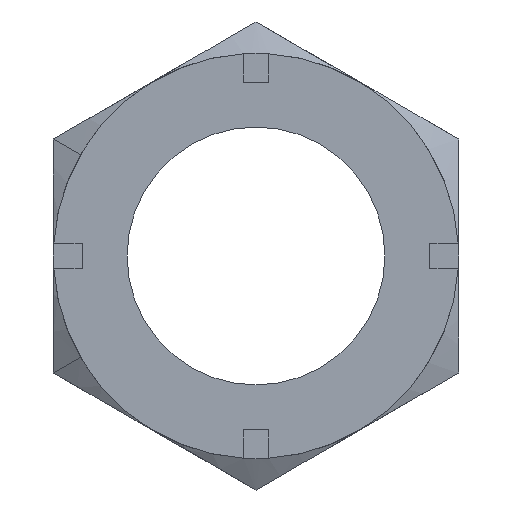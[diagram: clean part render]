
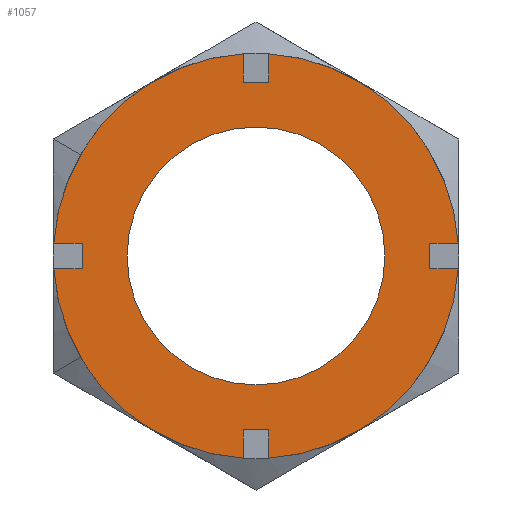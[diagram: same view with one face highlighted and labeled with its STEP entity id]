
A CAD part, left-side view. The second image highlights one B-rep face of the part: STEP entity #1057.
In plain terms, the highlighted planar face has unit normal (-1, 0, 0).
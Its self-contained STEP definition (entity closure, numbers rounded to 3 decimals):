
#130=CARTESIAN_POINT('',(-38.0,0.,17.5));
#131=VERTEX_POINT('',#130);
#140=CARTESIAN_POINT('',(-38.0,17.5,0.0));
#141=VERTEX_POINT('',#140);
#142=CARTESIAN_POINT('',(-38.0,0.0,0.0));
#143=DIRECTION('',(1.0,0.0,0.0));
#144=DIRECTION('',(0.0,1.0,0.0));
#145=AXIS2_PLACEMENT_3D('',#142,#143,#144);
#146=CIRCLE('',#145,17.5);
#147=EDGE_CURVE('',#141,#131,#146,.T.);
#341=CARTESIAN_POINT('',(-38.0,0.,-17.5));
#342=VERTEX_POINT('',#341);
#351=CARTESIAN_POINT('',(-38.0,-17.5,0.));
#352=VERTEX_POINT('',#351);
#353=CARTESIAN_POINT('',(-38.0,0.0,0.0));
#354=DIRECTION('',(1.0,0.0,0.0));
#355=DIRECTION('',(0.0,1.0,0.0));
#356=AXIS2_PLACEMENT_3D('',#353,#354,#355);
#357=CIRCLE('',#356,17.5);
#358=EDGE_CURVE('',#352,#342,#357,.T.);
#392=CARTESIAN_POINT('',(-38.0,0.0,0.0));
#393=DIRECTION('',(1.0,0.0,0.0));
#394=DIRECTION('',(0.0,1.0,0.0));
#395=AXIS2_PLACEMENT_3D('',#392,#393,#394);
#396=CIRCLE('',#395,17.5);
#397=EDGE_CURVE('',#342,#141,#396,.T.);
#407=CARTESIAN_POINT('',(-38.0,27.447,1.7));
#408=VERTEX_POINT('',#407);
#423=CARTESIAN_POINT('',(-38.0,23.6,1.7));
#424=VERTEX_POINT('',#423);
#431=CARTESIAN_POINT('',(-38.0,27.447,1.7));
#432=DIRECTION('',(0.0,-1.0,0.0));
#433=VECTOR('',#432,3.847);
#434=LINE('',#431,#433);
#435=EDGE_CURVE('',#408,#424,#434,.T.);
#445=CARTESIAN_POINT('',(-38.0,27.447,-1.7));
#446=VERTEX_POINT('',#445);
#455=CARTESIAN_POINT('',(-38.0,23.6,-1.7));
#456=VERTEX_POINT('',#455);
#457=CARTESIAN_POINT('',(-38.0,23.6,-1.7));
#458=DIRECTION('',(0.0,1.0,0.0));
#459=VECTOR('',#458,3.847);
#460=LINE('',#457,#459);
#461=EDGE_CURVE('',#456,#446,#460,.T.);
#492=CARTESIAN_POINT('',(-38.0,23.6,1.7));
#493=DIRECTION('',(0.0,0.0,-1.0));
#494=VECTOR('',#493,3.4);
#495=LINE('',#492,#494);
#496=EDGE_CURVE('',#424,#456,#495,.T.);
#528=CARTESIAN_POINT('',(-38.0,-1.7,27.447));
#529=VERTEX_POINT('',#528);
#544=CARTESIAN_POINT('',(-38.0,-1.7,23.6));
#545=VERTEX_POINT('',#544);
#552=CARTESIAN_POINT('',(-38.0,-1.7,27.447));
#553=DIRECTION('',(0.0,0.0,-1.0));
#554=VECTOR('',#553,3.847);
#555=LINE('',#552,#554);
#556=EDGE_CURVE('',#529,#545,#555,.T.);
#566=CARTESIAN_POINT('',(-38.0,1.7,27.447));
#567=VERTEX_POINT('',#566);
#576=CARTESIAN_POINT('',(-38.0,1.7,23.6));
#577=VERTEX_POINT('',#576);
#578=CARTESIAN_POINT('',(-38.0,1.7,23.6));
#579=DIRECTION('',(0.0,0.0,1.0));
#580=VECTOR('',#579,3.847);
#581=LINE('',#578,#580);
#582=EDGE_CURVE('',#577,#567,#581,.T.);
#613=CARTESIAN_POINT('',(-38.0,-1.7,23.6));
#614=DIRECTION('',(0.0,1.0,0.0));
#615=VECTOR('',#614,3.4);
#616=LINE('',#613,#615);
#617=EDGE_CURVE('',#545,#577,#616,.T.);
#648=CARTESIAN_POINT('',(-38.0,-27.447,-1.7));
#649=VERTEX_POINT('',#648);
#664=CARTESIAN_POINT('',(-38.0,-23.6,-1.7));
#665=VERTEX_POINT('',#664);
#672=CARTESIAN_POINT('',(-38.0,-27.447,-1.7));
#673=DIRECTION('',(0.0,1.0,0.0));
#674=VECTOR('',#673,3.847);
#675=LINE('',#672,#674);
#676=EDGE_CURVE('',#649,#665,#675,.T.);
#686=CARTESIAN_POINT('',(-38.0,-27.447,1.7));
#687=VERTEX_POINT('',#686);
#696=CARTESIAN_POINT('',(-38.0,-23.6,1.7));
#697=VERTEX_POINT('',#696);
#698=CARTESIAN_POINT('',(-38.0,-23.6,1.7));
#699=DIRECTION('',(0.0,-1.0,0.0));
#700=VECTOR('',#699,3.847);
#701=LINE('',#698,#700);
#702=EDGE_CURVE('',#697,#687,#701,.T.);
#733=CARTESIAN_POINT('',(-38.0,-23.6,-1.7));
#734=DIRECTION('',(0.0,0.0,1.0));
#735=VECTOR('',#734,3.4);
#736=LINE('',#733,#735);
#737=EDGE_CURVE('',#665,#697,#736,.T.);
#777=CARTESIAN_POINT('',(-38.0,1.7,-27.447));
#778=VERTEX_POINT('',#777);
#793=CARTESIAN_POINT('',(-38.0,1.7,-23.6));
#794=VERTEX_POINT('',#793);
#801=CARTESIAN_POINT('',(-38.0,1.7,-27.447));
#802=DIRECTION('',(0.0,0.0,1.0));
#803=VECTOR('',#802,3.847);
#804=LINE('',#801,#803);
#805=EDGE_CURVE('',#778,#794,#804,.T.);
#815=CARTESIAN_POINT('',(-38.0,-1.7,-27.447));
#816=VERTEX_POINT('',#815);
#825=CARTESIAN_POINT('',(-38.0,-1.7,-23.6));
#826=VERTEX_POINT('',#825);
#827=CARTESIAN_POINT('',(-38.0,-1.7,-23.6));
#828=DIRECTION('',(0.0,0.0,-1.0));
#829=VECTOR('',#828,3.847);
#830=LINE('',#827,#829);
#831=EDGE_CURVE('',#826,#816,#830,.T.);
#862=CARTESIAN_POINT('',(-38.0,1.7,-23.6));
#863=DIRECTION('',(0.0,-1.0,0.0));
#864=VECTOR('',#863,3.4);
#865=LINE('',#862,#864);
#866=EDGE_CURVE('',#794,#826,#865,.T.);
#896=CARTESIAN_POINT('',(-38.0,0.0,0.0));
#897=DIRECTION('',(1.0,0.0,0.0));
#898=DIRECTION('',(0.0,1.0,0.0));
#899=AXIS2_PLACEMENT_3D('',#896,#897,#898);
#900=CIRCLE('',#899,27.5);
#901=EDGE_CURVE('',#649,#816,#900,.T.);
#929=CARTESIAN_POINT('',(-38.0,0.0,0.0));
#930=DIRECTION('',(1.0,0.0,0.0));
#931=DIRECTION('',(0.0,1.0,0.0));
#932=AXIS2_PLACEMENT_3D('',#929,#930,#931);
#933=CIRCLE('',#932,27.5);
#934=EDGE_CURVE('',#529,#687,#933,.T.);
#978=CARTESIAN_POINT('',(-38.0,0.0,0.0));
#979=DIRECTION('',(1.0,0.0,0.0));
#980=DIRECTION('',(0.0,1.0,0.0));
#981=AXIS2_PLACEMENT_3D('',#978,#979,#980);
#982=CIRCLE('',#981,27.5);
#983=EDGE_CURVE('',#778,#446,#982,.T.);
#994=CARTESIAN_POINT('',(-38.0,0.0,0.0));
#995=DIRECTION('',(1.0,0.0,0.0));
#996=DIRECTION('',(0.0,1.0,0.0));
#997=AXIS2_PLACEMENT_3D('',#994,#995,#996);
#998=CIRCLE('',#997,27.5);
#999=EDGE_CURVE('',#408,#567,#998,.T.);
#1022=CARTESIAN_POINT('',(-38.0,-30.192,-30.192));
#1023=DIRECTION('',(-1.0,0.0,0.0));
#1024=DIRECTION('',(0.0,0.0,1.0));
#1025=AXIS2_PLACEMENT_3D('',#1022,#1023,#1024);
#1026=PLANE('',#1025);
#1027=ORIENTED_EDGE('',*,*,#435,.T.);
#1028=ORIENTED_EDGE('',*,*,#496,.T.);
#1029=ORIENTED_EDGE('',*,*,#461,.T.);
#1030=ORIENTED_EDGE('',*,*,#983,.F.);
#1031=ORIENTED_EDGE('',*,*,#805,.T.);
#1032=ORIENTED_EDGE('',*,*,#866,.T.);
#1033=ORIENTED_EDGE('',*,*,#831,.T.);
#1034=ORIENTED_EDGE('',*,*,#901,.F.);
#1035=ORIENTED_EDGE('',*,*,#676,.T.);
#1036=ORIENTED_EDGE('',*,*,#737,.T.);
#1037=ORIENTED_EDGE('',*,*,#702,.T.);
#1038=ORIENTED_EDGE('',*,*,#934,.F.);
#1039=ORIENTED_EDGE('',*,*,#556,.T.);
#1040=ORIENTED_EDGE('',*,*,#617,.T.);
#1041=ORIENTED_EDGE('',*,*,#582,.T.);
#1042=ORIENTED_EDGE('',*,*,#999,.F.);
#1043=EDGE_LOOP('',(#1027,#1028,#1029,#1030,#1031,#1032,#1033,#1034,#1035,#1036,#1037,#1038,#1039,#1040,#1041,#1042));
#1044=FACE_OUTER_BOUND('',#1043,.T.);
#1045=ORIENTED_EDGE('',*,*,#147,.T.);
#1046=CARTESIAN_POINT('',(-38.0,0.0,0.0));
#1047=DIRECTION('',(1.0,0.0,0.0));
#1048=DIRECTION('',(0.0,1.0,0.0));
#1049=AXIS2_PLACEMENT_3D('',#1046,#1047,#1048);
#1050=CIRCLE('',#1049,17.5);
#1051=EDGE_CURVE('',#131,#352,#1050,.T.);
#1052=ORIENTED_EDGE('',*,*,#1051,.T.);
#1053=ORIENTED_EDGE('',*,*,#358,.T.);
#1054=ORIENTED_EDGE('',*,*,#397,.T.);
#1055=EDGE_LOOP('',(#1045,#1052,#1053,#1054));
#1056=FACE_BOUND('',#1055,.T.);
#1057=ADVANCED_FACE('',(#1044,#1056),#1026,.T.);
